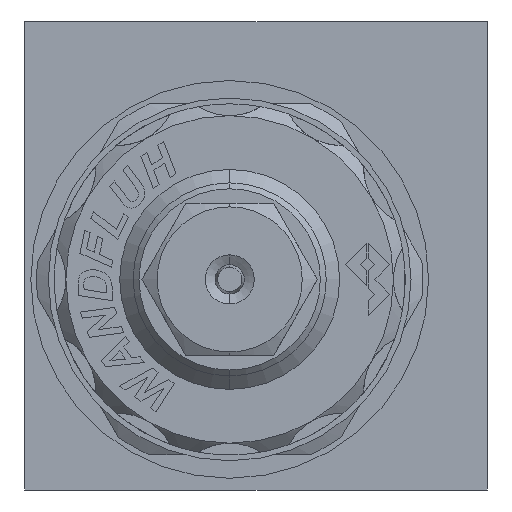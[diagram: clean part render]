
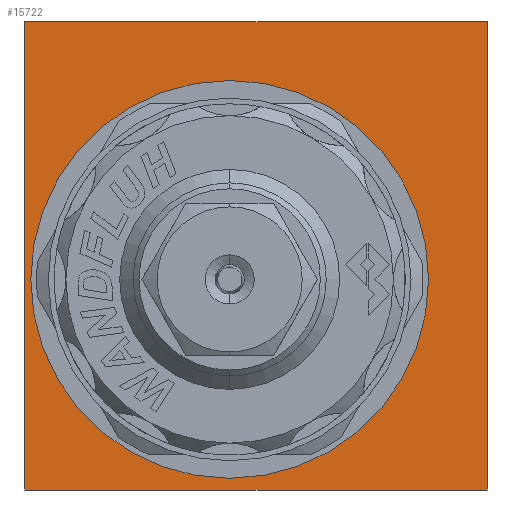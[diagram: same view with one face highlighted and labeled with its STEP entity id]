
A CAD part, left-side view. The second image highlights one B-rep face of the part: STEP entity #15722.
In plain terms, the highlighted planar face has unit normal (-1, 0, 0).
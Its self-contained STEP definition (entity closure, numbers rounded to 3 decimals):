
#111 = EDGE_CURVE ( 'NONE', #2381, #4755, #15721, .T. ) ;
#347 = EDGE_CURVE ( 'NONE', #21534, #4463, #9062, .T. ) ;
#1093 = CIRCLE ( 'NONE', #14117, 17. ) ;
#1348 = FACE_OUTER_BOUND ( 'NONE', #18488, .T. ) ;
#1370 = CARTESIAN_POINT ( 'NONE',  ( 0., -19.75, 20. ) ) ;
#1540 = VECTOR ( 'NONE', #19575, 1000. ) ;
#2381 = VERTEX_POINT ( 'NONE', #19581 ) ;
#2399 = CARTESIAN_POINT ( 'NONE',  ( 0., 19.75, -20. ) ) ;
#2746 = DIRECTION ( 'NONE',  ( 0., 0., -1. ) ) ;
#3569 = DIRECTION ( 'NONE',  ( -1., 0., 0. ) ) ;
#4100 = DIRECTION ( 'NONE',  ( 0., 0., 1. ) ) ;
#4463 = VERTEX_POINT ( 'NONE', #9819 ) ;
#4673 = CARTESIAN_POINT ( 'NONE',  ( 0., 2.25, 15. ) ) ;
#4755 = VERTEX_POINT ( 'NONE', #12675 ) ;
#5166 = EDGE_CURVE ( 'NONE', #4755, #18385, #16322, .T. ) ;
#5568 = CARTESIAN_POINT ( 'NONE',  ( 0., -19.75, -20. ) ) ;
#5772 = CARTESIAN_POINT ( 'NONE',  ( 0., 19.75, -20. ) ) ;
#6053 = LINE ( 'NONE', #9706, #1540 ) ;
#6223 = DIRECTION ( 'NONE',  ( -1., 0., 0. ) ) ;
#6958 = ORIENTED_EDGE ( 'NONE', *, *, #14509, .F. ) ;
#7104 = ORIENTED_EDGE ( 'NONE', *, *, #15211, .F. ) ;
#7213 = ORIENTED_EDGE ( 'NONE', *, *, #111, .F. ) ;
#7421 = ORIENTED_EDGE ( 'NONE', *, *, #5166, .F. ) ;
#7532 = VECTOR ( 'NONE', #20586, 1000. ) ;
#7971 = EDGE_CURVE ( 'NONE', #4463, #21534, #1093, .T. ) ;
#9062 = CIRCLE ( 'NONE', #9778, 17. ) ;
#9706 = CARTESIAN_POINT ( 'NONE',  ( 0., 19.75, 20. ) ) ;
#9778 = AXIS2_PLACEMENT_3D ( 'NONE', #13616, #3569, #15245 ) ;
#9819 = CARTESIAN_POINT ( 'NONE',  ( 0., 2.25, -19. ) ) ;
#10219 = CARTESIAN_POINT ( 'NONE',  ( 0., 19.75, 20. ) ) ;
#11514 = DIRECTION ( 'NONE',  ( 0., -1., 0. ) ) ;
#12399 = PLANE ( 'NONE',  #19663 ) ;
#12675 = CARTESIAN_POINT ( 'NONE',  ( 0., -19.75, -20. ) ) ;
#12699 = ORIENTED_EDGE ( 'NONE', *, *, #7971, .F. ) ;
#13045 = VERTEX_POINT ( 'NONE', #10219 ) ;
#13051 = ORIENTED_EDGE ( 'NONE', *, *, #347, .F. ) ;
#13616 = CARTESIAN_POINT ( 'NONE',  ( 0., 2.25, -2. ) ) ;
#14103 = DIRECTION ( 'NONE',  ( -1., 0., 0. ) ) ;
#14117 = AXIS2_PLACEMENT_3D ( 'NONE', #16158, #6223, #17841 ) ;
#14217 = FACE_BOUND ( 'NONE', #19486, .T. ) ;
#14509 = EDGE_CURVE ( 'NONE', #18385, #13045, #6053, .T. ) ;
#15211 = EDGE_CURVE ( 'NONE', #13045, #2381, #17157, .T. ) ;
#15245 = DIRECTION ( 'NONE',  ( 0., 0., 1. ) ) ;
#15721 = LINE ( 'NONE', #18883, #19595 ) ;
#15722 = ADVANCED_FACE ( 'NONE', ( #14217, #1348 ), #12399, .T. ) ;
#16158 = CARTESIAN_POINT ( 'NONE',  ( 0., 2.25, -2. ) ) ;
#16322 = LINE ( 'NONE', #5568, #7532 ) ;
#17157 = LINE ( 'NONE', #1370, #21592 ) ;
#17841 = DIRECTION ( 'NONE',  ( 0., 0., 1. ) ) ;
#18385 = VERTEX_POINT ( 'NONE', #5772 ) ;
#18488 = EDGE_LOOP ( 'NONE', ( #7421, #7213, #7104, #6958 ) ) ;
#18883 = CARTESIAN_POINT ( 'NONE',  ( 0., -19.75, 20. ) ) ;
#19486 = EDGE_LOOP ( 'NONE', ( #13051, #12699 ) ) ;
#19575 = DIRECTION ( 'NONE',  ( 0., 0., 1. ) ) ;
#19581 = CARTESIAN_POINT ( 'NONE',  ( 0., -19.75, 20. ) ) ;
#19595 = VECTOR ( 'NONE', #2746, 1000. ) ;
#19663 = AXIS2_PLACEMENT_3D ( 'NONE', #2399, #14103, #4100 ) ;
#20586 = DIRECTION ( 'NONE',  ( 0., 1., 0. ) ) ;
#21534 = VERTEX_POINT ( 'NONE', #4673 ) ;
#21592 = VECTOR ( 'NONE', #11514, 1000. ) ;
